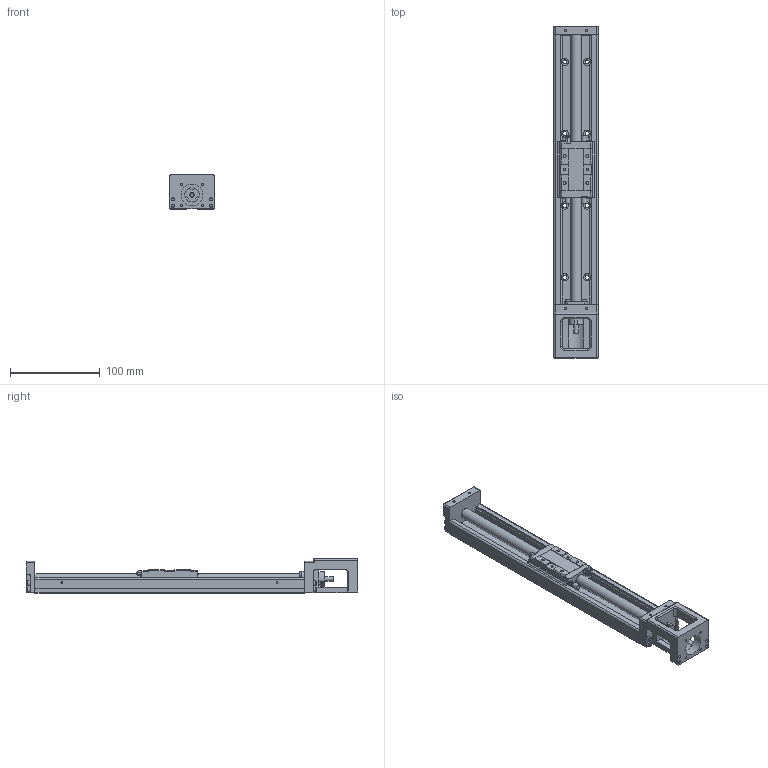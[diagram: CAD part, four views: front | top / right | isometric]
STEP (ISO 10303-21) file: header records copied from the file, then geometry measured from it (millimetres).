
FILE_DESCRIPTION(/* description */ (''),/* implementation_level */ '2;1');
FILE_NAME(/* name */ 'FKL50E300 02C7.stp',/* time_stamp */ '2018-12-26T10:08:31+08:00',/* author */ (''),/* organization */ (''),/* preprocessor_version */ 'ST-DEVELOPER v16',/* originating_system */ 'SIEMENS PLM Software NX 10.0',/* authorisation */ '');
FILE_SCHEMA (('AUTOMOTIVE_DESIGN { 1 0 10303 214 3 1 1 1 }'));
Length unit declared in the file: millimetre
Products named in the file (3): 滑块.KK50-A1; 轨道.KK50-300; FKL50E300 02C7
Assembly tree (2 placements, depth 2):
  FKL50E300 02C7
    轨道.KK50-300
    滑块.KK50-A1
Bounding box: 50 x 370 x 38.5 mm (x, y, z)
Volume: 270148.7 mm3; surface area: 93293.4 mm2
Topology: 2 solids, 5 shells, 622 faces, 1648 edges, 1057 vertices
Faces by surface type: plane 330, cylinder 189, cone 65, torus 28, sphere 4, extrusion 4, bspline 2
Full cylindrical faces by diameter (mm): 2.05 x4, 2.5 x10, 3.3 x5, 3.4 x4, 4 x1, 4.5 x8, 5 x1, 5.5 x16, 6 x4, 8 x8, 11 x1, 12 x2, 24 x1
Entity records: 19118 total; most frequent: CARTESIAN_POINT 4036, DIRECTION 3072, ORIENTED_EDGE 2952, EDGE_CURVE 1476, AXIS2_PLACEMENT_3D 1089, VERTEX_POINT 995, VECTOR 894, LINE 890
